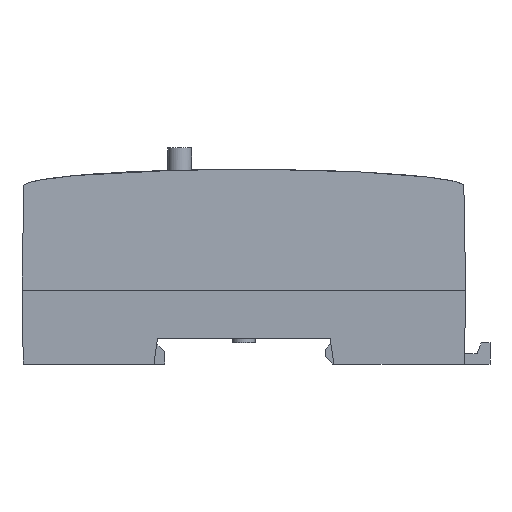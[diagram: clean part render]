
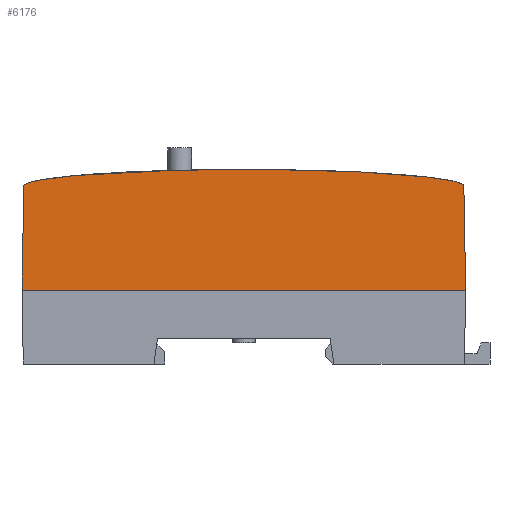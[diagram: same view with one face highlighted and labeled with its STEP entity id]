
A CAD part, left-side view. The second image highlights one B-rep face of the part: STEP entity #6176.
In plain terms, the highlighted planar face has unit normal (-1, 0, 0.018).
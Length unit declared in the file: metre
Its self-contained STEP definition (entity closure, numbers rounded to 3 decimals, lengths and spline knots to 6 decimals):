
#146=B_SPLINE_CURVE_WITH_KNOTS('',3,(#9407,#9408,#9409,#9410,#9411,#9412,#9413,#9414,#9415,#9416,#9417,#9418,#9419,#9420,#9421,#9422,#9423,#9424,#9425,#9426,#9427,#9428,#9429,#9430,#9431,#9432,#9433,#9434,#9435,#9436,#9437),.UNSPECIFIED.,.F.,.F.,(4,1,1,1,1,1,1,1,1,1,1,1,1,1,1,1,1,1,1,1,1,1,1,1,1,1,1,1,4),(0.00029,0.001001,0.001712,0.003134,0.004556,0.005977,0.008821,0.011665,0.014508,0.017352,0.023039,0.028726,0.034414,0.040101,0.045788,0.051476,0.057163,0.06285,0.068537,0.074225,0.077068,0.079912,0.082756,0.085599,0.087021,0.088443,0.089865,0.090576,0.091286),.UNSPECIFIED.);
#755=ORIENTED_EDGE('',*,*,#2432,.F.);
#756=ORIENTED_EDGE('',*,*,#2438,.T.);
#757=ORIENTED_EDGE('',*,*,#2449,.T.);
#758=ORIENTED_EDGE('',*,*,#2397,.T.);
#2397=EDGE_CURVE('',#3257,#3202,#3869,.T.);
#2432=EDGE_CURVE('',#3280,#3202,#3902,.F.);
#2438=EDGE_CURVE('',#3280,#3284,#146,.T.);
#2449=EDGE_CURVE('',#3284,#3257,#3915,.T.);
#3202=VERTEX_POINT('',#9152);
#3257=VERTEX_POINT('',#9272);
#3280=VERTEX_POINT('',#9344);
#3284=VERTEX_POINT('',#9406);
#3869=LINE('',#9280,#4459);
#3902=LINE('',#9345,#4492);
#3915=LINE('',#9498,#4505);
#4459=VECTOR('',#7805,1.);
#4492=VECTOR('',#7860,1.);
#4505=VECTOR('',#7877,1.);
#4989=EDGE_LOOP('',(#755,#756,#757,#758));
#5471=FACE_BOUND('',#4989,.T.);
#5943=PLANE('',#7307);
#6176=ADVANCED_FACE('TopABS',(#5471),#5943,.T.);
#7307=AXIS2_PLACEMENT_3D('',#9500,#7879,#7880);
#7805=DIRECTION('',(0.,-1.,0.));
#7860=DIRECTION('',(0.017,0.017,1.));
#7877=DIRECTION('',(-0.017,0.017,-1.));
#7879=DIRECTION('',(-1.,0.,0.017));
#7880=DIRECTION('',(0.017,0.,1.));
#9152=CARTESIAN_POINT('',(-0.05375,-0.045,0.));
#9272=CARTESIAN_POINT('',(-0.05375,0.045,0.));
#9280=CARTESIAN_POINT('',(-0.05375,0.,0.));
#9344=CARTESIAN_POINT('',(-0.053379,-0.044629,0.021257));
#9345=CARTESIAN_POINT('',(-0.053736,-0.044986,0.000785));
#9406=CARTESIAN_POINT('',(-0.053379,0.044629,0.021257));
#9407=CARTESIAN_POINT('',(-0.053379,-0.044629,0.021257));
#9408=CARTESIAN_POINT('',(-0.053376,-0.044466,0.02143));
#9409=CARTESIAN_POINT('',(-0.053372,-0.044033,0.021638));
#9410=CARTESIAN_POINT('',(-0.053367,-0.043149,0.021949));
#9411=CARTESIAN_POINT('',(-0.053362,-0.042009,0.022217));
#9412=CARTESIAN_POINT('',(-0.053358,-0.040632,0.022474));
#9413=CARTESIAN_POINT('',(-0.053353,-0.038781,0.022758));
#9414=CARTESIAN_POINT('',(-0.053348,-0.036458,0.023041));
#9415=CARTESIAN_POINT('',(-0.053343,-0.033663,0.023314));
#9416=CARTESIAN_POINT('',(-0.053339,-0.030864,0.02354));
#9417=CARTESIAN_POINT('',(-0.053335,-0.027129,0.023795));
#9418=CARTESIAN_POINT('',(-0.05333,-0.022456,0.024041));
#9419=CARTESIAN_POINT('',(-0.053327,-0.016844,0.024254));
#9420=CARTESIAN_POINT('',(-0.053324,-0.011229,0.024398));
#9421=CARTESIAN_POINT('',(-0.053323,-0.005614,0.024482));
#9422=CARTESIAN_POINT('',(-0.053322,0.000002,0.024509));
#9423=CARTESIAN_POINT('',(-0.053323,0.005618,0.024482));
#9424=CARTESIAN_POINT('',(-0.053324,0.011233,0.024398));
#9425=CARTESIAN_POINT('',(-0.053327,0.016848,0.024254));
#9426=CARTESIAN_POINT('',(-0.05333,0.02246,0.024041));
#9427=CARTESIAN_POINT('',(-0.053335,0.027133,0.023794));
#9428=CARTESIAN_POINT('',(-0.053339,0.030868,0.02354));
#9429=CARTESIAN_POINT('',(-0.053343,0.033667,0.023314));
#9430=CARTESIAN_POINT('',(-0.053348,0.036462,0.02304));
#9431=CARTESIAN_POINT('',(-0.053353,0.038785,0.022757));
#9432=CARTESIAN_POINT('',(-0.053358,0.040636,0.022474));
#9433=CARTESIAN_POINT('',(-0.053362,0.042016,0.022216));
#9434=CARTESIAN_POINT('',(-0.053367,0.043158,0.021946));
#9435=CARTESIAN_POINT('',(-0.053372,0.044038,0.021636));
#9436=CARTESIAN_POINT('',(-0.053376,0.044467,0.021429));
#9437=CARTESIAN_POINT('',(-0.053379,0.044629,0.021257));
#9498=CARTESIAN_POINT('',(-0.053736,0.044986,0.000785));
#9500=CARTESIAN_POINT('',(-0.05375,0.,0.));
